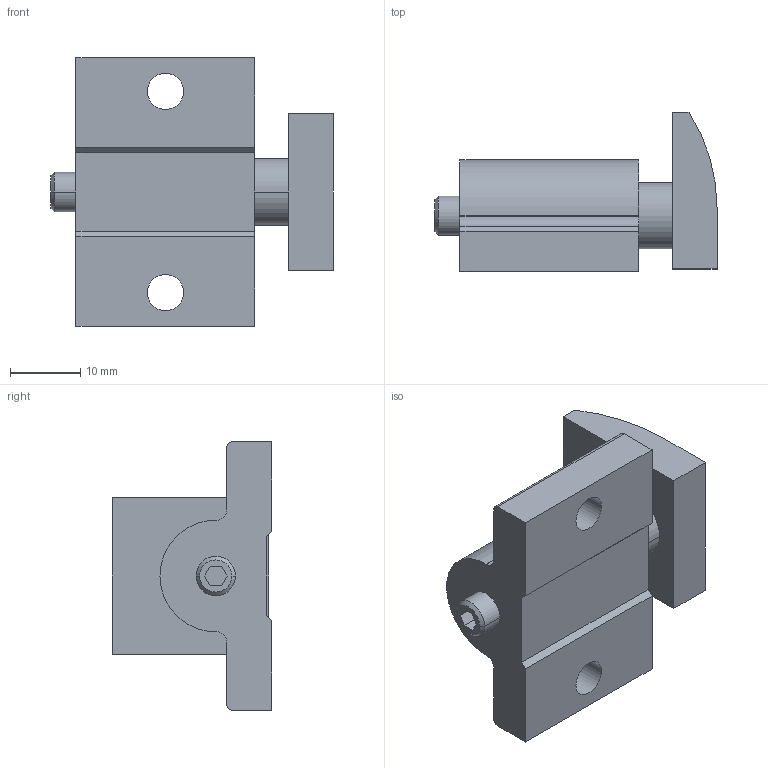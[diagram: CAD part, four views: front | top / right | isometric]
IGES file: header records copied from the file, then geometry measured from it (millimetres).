
Start section:  PTC IGES file: ss90b-3d.igs
Global section: file name: ss90b-3d.igs; native system: Pro/ENGINEER by Parametric Technology Corporation; preprocessor: 2002350; author: chant; organization: Unknown; date: 061026.134511; units: inch
Bounding box: 40.06 x 22.61 x 38.1 mm (x, y, z)
Surface area: 5950.4 mm2 (no closed solid volume)
Topology: 0 solids, 0 shells, 54 faces, 377 edges, 476 vertices
Faces by surface type: bspline 30, revolution 24
